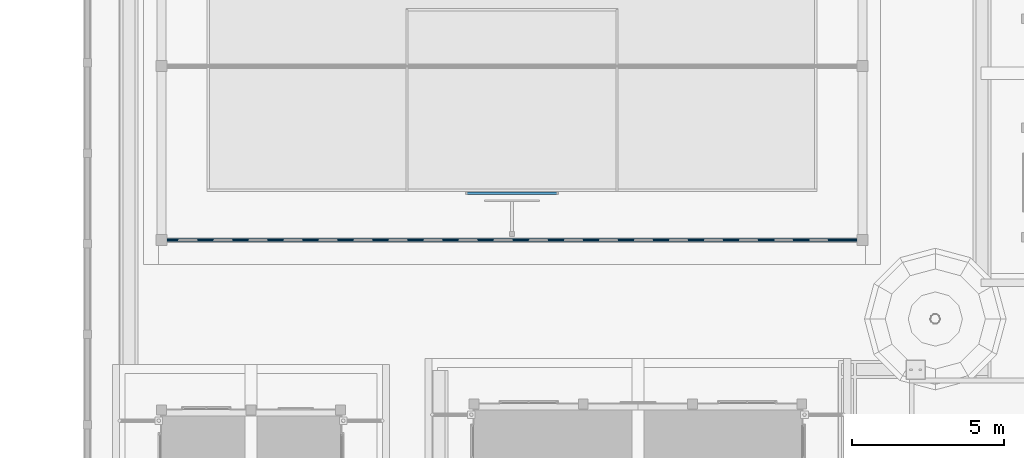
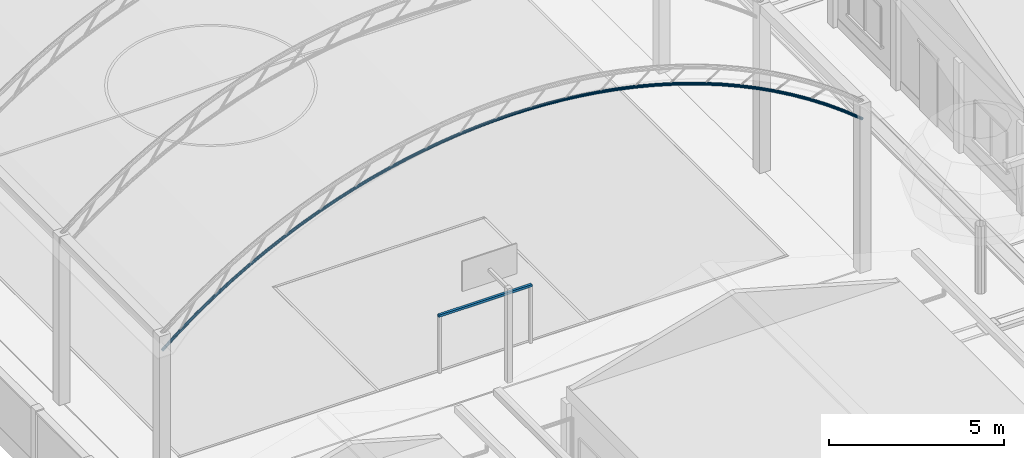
# One storey, part 18 of 177: 2 beams.
"""IFC4 building model written with IfcOpenShell, lengths in metres."""

from ifc_helpers import new_model, si_unit, origin, origin_with_axes, place, context, subcontext, project, spatial, triangles, element, save


model = new_model("IFC4")

# Units and contexts
model_context = context("Model", 3, precision=1e-05, world=origin_with_axes())
body_context = subcontext(model_context, "Body", "Model", "MODEL_VIEW")
ifc_project = project(units=[si_unit("LENGTHUNIT", "METRE"), si_unit("AREAUNIT", "SQUARE_METRE"), si_unit("VOLUMEUNIT", "CUBIC_METRE"), si_unit("PLANEANGLEUNIT", "RADIAN")], contexts=[model_context])

# Site, building, storey
site_placement = place(None, origin_with_axes())
site = spatial("IfcSite", under=ifc_project, at=site_placement, Name="Predio Los Mangos - Morales, San Martín", CompositionType="ELEMENT")
building_placement = place(site_placement, origin())
building = spatial("IfcBuilding", under=site, at=building_placement, Name="Hogar de Refugio Temporal", CompositionType="ELEMENT")
storey_placement = place(building_placement, origin())
storey = spatial("IfcBuildingStorey", under=building, at=storey_placement, Name="NIVEL 1 (NPT +0.00)", CompositionType="ELEMENT", Elevation=0.0)

# Beams
beam_1_placement = place(storey_placement, origin())
element("IfcBeam", 1, at=beam_1_placement, inside=storey, Name="travesano", ObjectType="Viga", PredefinedType="BEAM", context=body_context, shape_type="Tessellation", body=[
    triangles([(13.51, 94.11, 2.08), (16.59, 94.11, 2.08), (16.59, 94.19, 2.08), (13.51, 94.19, 2.08), (13.51, 94.11, 2.16), (16.59, 94.11, 2.16), (16.59, 94.19, 2.16), (13.51, 94.19, 2.16)], [[1, 4, 3], [1, 3, 2], [5, 6, 7], [5, 7, 8], [1, 2, 6], [1, 6, 5], [2, 3, 7], [2, 7, 6], [3, 4, 8], [3, 8, 7], [4, 1, 5], [4, 5, 8]]),
])
beam_2_placement = place(storey_placement, origin())
element("IfcBeam", 2, at=beam_2_placement, inside=storey, Name="arco", ObjectType="Viga", PredefinedType="BEAM", context=body_context, shape_type="Tessellation", body=[
    triangles([(3.4843, 92.6433, 5.3695), (3.4729, 92.625, 5.3838), (3.4687, 92.6, 5.389), (3.4729, 92.575, 5.3838), (3.4843, 92.5567, 5.3695), (3.5, 92.55, 5.35), (3.5157, 92.5567, 5.3305), (3.5271, 92.575, 5.3162), (3.5313, 92.6, 5.311), (3.5271, 92.625, 5.3162), (3.5157, 92.6433, 5.3305), (3.5, 92.65, 5.35), (4.0622, 92.6433, 5.8339), (4.0511, 92.625, 5.8484), (4.047, 92.6, 5.8537), (4.0511, 92.575, 5.8484), (4.0622, 92.5567, 5.8339), (4.0775, 92.55, 5.8141), (4.0928, 92.5567, 5.7943), (4.1039, 92.575, 5.7798), (4.108, 92.6, 5.7745), (4.1039, 92.625, 5.7798), (4.0928, 92.6433, 5.7943), (4.0775, 92.65, 5.8141), (4.6405, 92.6433, 6.2612), (4.63, 92.625, 6.2761), (4.6261, 92.6, 6.2816), (4.63, 92.575, 6.2761), (4.6405, 92.5567, 6.2612), (4.655, 92.55, 6.2408), (4.6695, 92.5567, 6.2204), (4.68, 92.575, 6.2055), (4.6839, 92.6, 6.2), (4.68, 92.625, 6.2055), (4.6695, 92.6433, 6.2204), (4.655, 92.65, 6.2408), (5.2188, 92.6433, 6.6543), (5.2088, 92.625, 6.6696), (5.2052, 92.6, 6.6752), (5.2088, 92.575, 6.6696), (5.2188, 92.5567, 6.6543), (5.2325, 92.55, 6.6333), (5.2462, 92.5567, 6.6124), (5.2562, 92.575, 6.5971), (5.2598, 92.6, 6.5915), (5.2562, 92.625, 6.5971), (5.2462, 92.6433, 6.6124), (5.2325, 92.65, 6.6333), (5.7971, 92.6433, 7.0157), (5.7877, 92.625, 7.0314), (5.7843, 92.6, 7.0372), (5.7877, 92.575, 7.0314), (5.7971, 92.5567, 7.0157), (5.81, 92.55, 6.9943), (5.8229, 92.5567, 6.9729), (5.8323, 92.575, 6.9572), (5.8357, 92.6, 6.9514), (5.8323, 92.625, 6.9572), (5.8229, 92.6433, 6.9729), (5.81, 92.65, 6.9943), (6.3755, 92.6433, 7.3478), (6.3666, 92.625, 7.3638), (6.3634, 92.6, 7.3697), (6.3666, 92.575, 7.3638), (6.3755, 92.5567, 7.3478), (6.3875, 92.55, 7.3259), (6.3995, 92.5567, 7.304), (6.4084, 92.575, 7.2879), (6.4116, 92.6, 7.282), (6.4084, 92.625, 7.2879), (6.3995, 92.6433, 7.304), (6.3875, 92.65, 7.3259), (6.9538, 92.6433, 7.6522), (6.9455, 92.625, 7.6685), (6.9425, 92.6, 7.6745), (6.9455, 92.575, 7.6685), (6.9538, 92.5567, 7.6522), (6.965, 92.55, 7.6298), (6.9762, 92.5567, 7.6075), (6.9845, 92.575, 7.5912), (6.9875, 92.6, 7.5852), (6.9845, 92.625, 7.5912), (6.9762, 92.6433, 7.6075), (6.965, 92.65, 7.6298), (7.5321, 92.6433, 7.9305), (7.5244, 92.625, 7.9471), (7.5216, 92.6, 7.9532), (7.5244, 92.575, 7.9471), (7.5321, 92.5567, 7.9305), (7.5425, 92.55, 7.9077), (7.5529, 92.5567, 7.885), (7.5606, 92.575, 7.8684), (7.5634, 92.6, 7.8623), (7.5606, 92.625, 7.8684), (7.5529, 92.6433, 7.885), (7.5425, 92.65, 7.9077), (8.1104, 92.6433, 8.184), (8.1033, 92.625, 8.2009), (8.1007, 92.6, 8.2071), (8.1033, 92.575, 8.2009), (8.1104, 92.5567, 8.184), (8.12, 92.55, 8.1609), (8.1296, 92.5567, 8.1379), (8.1367, 92.575, 8.121), (8.1393, 92.6, 8.1148), (8.1367, 92.625, 8.121), (8.1296, 92.6433, 8.1379), (8.12, 92.65, 8.1609), (8.6887, 92.6433, 8.4139), (8.6822, 92.625, 8.431), (8.6798, 92.6, 8.4373), (8.6822, 92.575, 8.431), (8.6887, 92.5567, 8.4139), (8.6975, 92.55, 8.3905), (8.7063, 92.5567, 8.3671), (8.7128, 92.575, 8.35), (8.7152, 92.6, 8.3437), (8.7128, 92.625, 8.35), (8.7063, 92.6433, 8.3671), (8.6975, 92.65, 8.3905), (9.267, 92.6433, 8.6211), (9.2611, 92.625, 8.6384), (9.2589, 92.6, 8.6447), (9.2611, 92.575, 8.6384), (9.267, 92.5567, 8.6211), (9.275, 92.55, 8.5974), (9.283, 92.5567, 8.5737), (9.2889, 92.575, 8.5564), (9.2911, 92.6, 8.55), (9.2889, 92.625, 8.5564), (9.283, 92.6433, 8.5737), (9.275, 92.65, 8.5974), (9.8453, 92.6433, 8.8064), (9.84, 92.625, 8.8239), (9.838, 92.6, 8.8303), (9.84, 92.575, 8.8239), (9.8453, 92.5567, 8.8064), (9.8525, 92.55, 8.7824), (9.8597, 92.5567, 8.7585), (9.865, 92.575, 8.741), (9.867, 92.6, 8.7346), (9.865, 92.625, 8.741), (9.8597, 92.6433, 8.7585), (9.8525, 92.65, 8.7824), (10.4236, 92.6433, 8.9705), (10.4189, 92.625, 8.9882), (10.4172, 92.6, 8.9947), (10.4189, 92.575, 8.9882), (10.4236, 92.5567, 8.9705), (10.43, 92.55, 8.9463), (10.4364, 92.5567, 8.9222), (10.4411, 92.575, 8.9045), (10.4429, 92.6, 8.898), (10.4411, 92.625, 8.9045), (10.4364, 92.6433, 8.9222), (10.43, 92.65, 8.9463), (11.0019, 92.6433, 9.1141), (10.9978, 92.625, 9.1319), (10.9963, 92.6, 9.1384), (10.9978, 92.575, 9.1319), (11.0019, 92.5567, 9.1141), (11.0075, 92.55, 9.0897), (11.0131, 92.5567, 9.0653), (11.0172, 92.575, 9.0475), (11.0187, 92.6, 9.041), (11.0172, 92.625, 9.0475), (11.0131, 92.6433, 9.0653), (11.0075, 92.65, 9.0897), (11.5802, 92.6433, 9.2375), (11.5767, 92.625, 9.2555), (11.5754, 92.6, 9.2621), (11.5767, 92.575, 9.2555), (11.5802, 92.5567, 9.2375), (11.585, 92.55, 9.213), (11.5898, 92.5567, 9.1885), (11.5933, 92.575, 9.1705), (11.5946, 92.6, 9.1639), (11.5933, 92.625, 9.1705), (11.5898, 92.6433, 9.1885), (11.585, 92.65, 9.213), (12.1585, 92.6433, 9.3413), (12.1555, 92.625, 9.3594), (12.1545, 92.6, 9.366), (12.1555, 92.575, 9.3594), (12.1585, 92.5567, 9.3413), (12.1625, 92.55, 9.3166), (12.1665, 92.5567, 9.292), (12.1695, 92.575, 9.2739), (12.1705, 92.6, 9.2673), (12.1695, 92.625, 9.2739), (12.1665, 92.6433, 9.292), (12.1625, 92.65, 9.3166), (12.7368, 92.6433, 9.4258), (12.7344, 92.625, 9.4439), (12.7336, 92.6, 9.4506), (12.7344, 92.575, 9.4439), (12.7368, 92.5567, 9.4258), (12.74, 92.55, 9.401), (12.7432, 92.5567, 9.3762), (12.7456, 92.575, 9.3581), (12.7464, 92.6, 9.3514), (12.7456, 92.625, 9.3581), (12.7432, 92.6433, 9.3762), (12.74, 92.65, 9.401), (13.3151, 92.6433, 9.4912), (13.3133, 92.625, 9.5094), (13.3127, 92.6, 9.5161), (13.3133, 92.575, 9.5094), (13.3151, 92.5567, 9.4912), (13.3175, 92.55, 9.4663), (13.3199, 92.5567, 9.4415), (13.3217, 92.575, 9.4232), (13.3223, 92.6, 9.4166), (13.3217, 92.625, 9.4232), (13.3199, 92.6433, 9.4415), (13.3175, 92.65, 9.4663), (13.8934, 92.6433, 9.5378), (13.8922, 92.625, 9.5561), (13.8918, 92.6, 9.5628), (13.8922, 92.575, 9.5561), (13.8934, 92.5567, 9.5378), (13.895, 92.55, 9.5129), (13.8966, 92.5567, 9.4879), (13.8978, 92.575, 9.4697), (13.8982, 92.6, 9.463), (13.8978, 92.625, 9.4697), (13.8966, 92.6433, 9.4879), (13.895, 92.65, 9.5129), (14.4717, 92.6433, 9.5657), (14.4711, 92.625, 9.584), (14.4709, 92.6, 9.5907), (14.4711, 92.575, 9.584), (14.4717, 92.5567, 9.5657), (14.4725, 92.55, 9.5407), (14.4733, 92.5567, 9.5157), (14.4739, 92.575, 9.4974), (14.4741, 92.6, 9.4907), (14.4739, 92.625, 9.4974), (14.4733, 92.6433, 9.5157), (14.4725, 92.65, 9.5407), (15.05, 92.6433, 9.575), (15.05, 92.625, 9.5933), (15.05, 92.6, 9.6), (15.05, 92.575, 9.5933), (15.05, 92.5567, 9.575), (15.05, 92.55, 9.55), (15.05, 92.5567, 9.525), (15.05, 92.575, 9.5067), (15.05, 92.6, 9.5), (15.05, 92.625, 9.5067), (15.05, 92.6433, 9.525), (15.05, 92.65, 9.55), (15.6283, 92.6433, 9.5657), (15.6289, 92.625, 9.584), (15.6291, 92.6, 9.5907), (15.6289, 92.575, 9.584), (15.6283, 92.5567, 9.5657), (15.6275, 92.55, 9.5407), (15.6267, 92.5567, 9.5157), (15.6261, 92.575, 9.4974), (15.6259, 92.6, 9.4907), (15.6261, 92.625, 9.4974), (15.6267, 92.6433, 9.5157), (15.6275, 92.65, 9.5407), (16.2066, 92.6433, 9.5378), (16.2078, 92.625, 9.5561), (16.2082, 92.6, 9.5628), (16.2078, 92.575, 9.5561), (16.2066, 92.5567, 9.5378), (16.205, 92.55, 9.5129), (16.2034, 92.5567, 9.4879), (16.2022, 92.575, 9.4697), (16.2018, 92.6, 9.463), (16.2022, 92.625, 9.4697), (16.2034, 92.6433, 9.4879), (16.205, 92.65, 9.5129), (16.7849, 92.6433, 9.4912), (16.7867, 92.625, 9.5094), (16.7873, 92.6, 9.5161), (16.7867, 92.575, 9.5094), (16.7849, 92.5567, 9.4912), (16.7825, 92.55, 9.4663), (16.7801, 92.5567, 9.4415), (16.7783, 92.575, 9.4232), (16.7777, 92.6, 9.4166), (16.7783, 92.625, 9.4232), (16.7801, 92.6433, 9.4415), (16.7825, 92.65, 9.4663), (17.3632, 92.6433, 9.4258), (17.3656, 92.625, 9.4439), (17.3664, 92.6, 9.4506), (17.3656, 92.575, 9.4439), (17.3632, 92.5567, 9.4258), (17.36, 92.55, 9.401), (17.3568, 92.5567, 9.3762), (17.3544, 92.575, 9.3581), (17.3536, 92.6, 9.3514), (17.3544, 92.625, 9.3581), (17.3568, 92.6433, 9.3762), (17.36, 92.65, 9.401), (17.9415, 92.6433, 9.3413), (17.9445, 92.625, 9.3594), (17.9455, 92.6, 9.366), (17.9445, 92.575, 9.3594), (17.9415, 92.5567, 9.3413), (17.9375, 92.55, 9.3166), (17.9335, 92.5567, 9.292), (17.9305, 92.575, 9.2739), (17.9295, 92.6, 9.2673), (17.9305, 92.625, 9.2739), (17.9335, 92.6433, 9.292), (17.9375, 92.65, 9.3166), (18.5198, 92.6433, 9.2375), (18.5233, 92.625, 9.2555), (18.5246, 92.6, 9.2621), (18.5233, 92.575, 9.2555), (18.5198, 92.5567, 9.2375), (18.515, 92.55, 9.213), (18.5102, 92.5567, 9.1885), (18.5067, 92.575, 9.1705), (18.5054, 92.6, 9.1639), (18.5067, 92.625, 9.1705), (18.5102, 92.6433, 9.1885), (18.515, 92.65, 9.213), (19.0981, 92.6433, 9.1141), (19.1022, 92.625, 9.1319), (19.1037, 92.6, 9.1384), (19.1022, 92.575, 9.1319), (19.0981, 92.5567, 9.1141), (19.0925, 92.55, 9.0897), (19.0869, 92.5567, 9.0653), (19.0828, 92.575, 9.0475), (19.0813, 92.6, 9.041), (19.0828, 92.625, 9.0475), (19.0869, 92.6433, 9.0653), (19.0925, 92.65, 9.0897), (19.6764, 92.6433, 8.9705), (19.6811, 92.625, 8.9882), (19.6828, 92.6, 8.9947), (19.6811, 92.575, 8.9882), (19.6764, 92.5567, 8.9705), (19.67, 92.55, 8.9463), (19.6636, 92.5567, 8.9222), (19.6589, 92.575, 8.9045), (19.6572, 92.6, 8.898), (19.6589, 92.625, 8.9045), (19.6636, 92.6433, 8.9222), (19.67, 92.65, 8.9463), (20.2547, 92.6433, 8.8064), (20.26, 92.625, 8.8239), (20.262, 92.6, 8.8303), (20.26, 92.575, 8.8239), (20.2547, 92.5567, 8.8064), (20.2475, 92.55, 8.7824), (20.2403, 92.5567, 8.7585), (20.235, 92.575, 8.741), (20.233, 92.6, 8.7346), (20.235, 92.625, 8.741), (20.2403, 92.6433, 8.7585), (20.2475, 92.65, 8.7824), (20.833, 92.6433, 8.6211), (20.8389, 92.625, 8.6384), (20.8411, 92.6, 8.6447), (20.8389, 92.575, 8.6384), (20.833, 92.5567, 8.6211), (20.825, 92.55, 8.5974), (20.817, 92.5567, 8.5737), (20.8111, 92.575, 8.5564), (20.8089, 92.6, 8.55), (20.8111, 92.625, 8.5564), (20.817, 92.6433, 8.5737), (20.825, 92.65, 8.5974), (21.4113, 92.6433, 8.4139), (21.4178, 92.625, 8.431), (21.4202, 92.6, 8.4373), (21.4178, 92.575, 8.431), (21.4113, 92.5567, 8.4139), (21.4025, 92.55, 8.3905), (21.3937, 92.5567, 8.3671), (21.3872, 92.575, 8.35), (21.3848, 92.6, 8.3437), (21.3872, 92.625, 8.35), (21.3937, 92.6433, 8.3671), (21.4025, 92.65, 8.3905), (21.9896, 92.6433, 8.184), (21.9967, 92.625, 8.2009), (21.9993, 92.6, 8.2071), (21.9967, 92.575, 8.2009), (21.9896, 92.5567, 8.184), (21.98, 92.55, 8.1609), (21.9704, 92.5567, 8.1379), (21.9633, 92.575, 8.121), (21.9607, 92.6, 8.1148), (21.9633, 92.625, 8.121), (21.9704, 92.6433, 8.1379), (21.98, 92.65, 8.1609), (22.5679, 92.6433, 7.9305), (22.5756, 92.625, 7.9471), (22.5784, 92.6, 7.9532), (22.5756, 92.575, 7.9471), (22.5679, 92.5567, 7.9305), (22.5575, 92.55, 7.9077), (22.5471, 92.5567, 7.885), (22.5394, 92.575, 7.8684), (22.5366, 92.6, 7.8623), (22.5394, 92.625, 7.8684), (22.5471, 92.6433, 7.885), (22.5575, 92.65, 7.9077), (23.1462, 92.6433, 7.6522), (23.1545, 92.625, 7.6685), (23.1575, 92.6, 7.6745), (23.1545, 92.575, 7.6685), (23.1462, 92.5567, 7.6522), (23.135, 92.55, 7.6298), (23.1238, 92.5567, 7.6075), (23.1155, 92.575, 7.5912), (23.1125, 92.6, 7.5852), (23.1155, 92.625, 7.5912), (23.1238, 92.6433, 7.6075), (23.135, 92.65, 7.6298), (23.7245, 92.6433, 7.3478), (23.7334, 92.625, 7.3638), (23.7366, 92.6, 7.3697), (23.7334, 92.575, 7.3638), (23.7245, 92.5567, 7.3478), (23.7125, 92.55, 7.3259), (23.7005, 92.5567, 7.304), (23.6916, 92.575, 7.2879), (23.6884, 92.6, 7.282), (23.6916, 92.625, 7.2879), (23.7005, 92.6433, 7.304), (23.7125, 92.65, 7.3259), (24.3029, 92.6433, 7.0157), (24.3123, 92.625, 7.0314), (24.3157, 92.6, 7.0372), (24.3123, 92.575, 7.0314), (24.3029, 92.5567, 7.0157), (24.29, 92.55, 6.9943), (24.2771, 92.5567, 6.9729), (24.2677, 92.575, 6.9572), (24.2643, 92.6, 6.9514), (24.2677, 92.625, 6.9572), (24.2771, 92.6433, 6.9729), (24.29, 92.65, 6.9943), (24.8812, 92.6433, 6.6543), (24.8912, 92.625, 6.6696), (24.8948, 92.6, 6.6752), (24.8912, 92.575, 6.6696), (24.8812, 92.5567, 6.6543), (24.8675, 92.55, 6.6333), (24.8538, 92.5567, 6.6124), (24.8438, 92.575, 6.5971), (24.8402, 92.6, 6.5915), (24.8438, 92.625, 6.5971), (24.8538, 92.6433, 6.6124), (24.8675, 92.65, 6.6333), (25.4595, 92.6433, 6.2612), (25.47, 92.625, 6.2761), (25.4739, 92.6, 6.2816), (25.47, 92.575, 6.2761), (25.4595, 92.5567, 6.2612), (25.445, 92.55, 6.2408), (25.4305, 92.5567, 6.2204), (25.42, 92.575, 6.2055), (25.4161, 92.6, 6.2), (25.42, 92.625, 6.2055), (25.4305, 92.6433, 6.2204), (25.445, 92.65, 6.2408), (26.0378, 92.6433, 5.8339), (26.0489, 92.625, 5.8484), (26.053, 92.6, 5.8537), (26.0489, 92.575, 5.8484), (26.0378, 92.5567, 5.8339), (26.0225, 92.55, 5.8141), (26.0072, 92.5567, 5.7943), (25.9961, 92.575, 5.7798), (25.992, 92.6, 5.7745), (25.9961, 92.625, 5.7798), (26.0072, 92.6433, 5.7943), (26.0225, 92.65, 5.8141), (26.6157, 92.6433, 5.3695), (26.6271, 92.625, 5.3838), (26.6313, 92.6, 5.389), (26.6271, 92.575, 5.3838), (26.6157, 92.5567, 5.3695), (26.6, 92.55, 5.35), (26.5843, 92.5567, 5.3305), (26.5729, 92.575, 5.3162), (26.5687, 92.6, 5.311), (26.5729, 92.625, 5.3162), (26.5843, 92.6433, 5.3305), (26.6, 92.65, 5.35)], [[1, 13, 24], [1, 24, 12], [2, 14, 13], [2, 13, 1], [3, 15, 14], [3, 14, 2], [4, 16, 15], [4, 15, 3], [5, 17, 16], [5, 16, 4], [6, 18, 17], [6, 17, 5], [7, 19, 18], [7, 18, 6], [8, 20, 19], [8, 19, 7], [9, 21, 20], [9, 20, 8], [10, 22, 21], [10, 21, 9], [11, 23, 22], [11, 22, 10], [12, 24, 23], [12, 23, 11], [13, 25, 36], [13, 36, 24], [14, 26, 25], [14, 25, 13], [15, 27, 26], [15, 26, 14], [16, 28, 27], [16, 27, 15], [17, 29, 28], [17, 28, 16], [18, 30, 29], [18, 29, 17], [19, 31, 30], [19, 30, 18], [20, 32, 31], [20, 31, 19], [21, 33, 32], [21, 32, 20], [22, 34, 33], [22, 33, 21], [23, 35, 34], [23, 34, 22], [24, 36, 35], [24, 35, 23], [25, 37, 48], [25, 48, 36], [26, 38, 37], [26, 37, 25], [27, 39, 38], [27, 38, 26], [28, 40, 39], [28, 39, 27], [29, 41, 40], [29, 40, 28], [30, 42, 41], [30, 41, 29], [31, 43, 42], [31, 42, 30], [32, 44, 43], [32, 43, 31], [33, 45, 44], [33, 44, 32], [34, 46, 45], [34, 45, 33], [35, 47, 46], [35, 46, 34], [36, 48, 47], [36, 47, 35], [37, 49, 60], [37, 60, 48], [38, 50, 49], [38, 49, 37], [39, 51, 50], [39, 50, 38], [40, 52, 51], [40, 51, 39], [41, 53, 52], [41, 52, 40], [42, 54, 53], [42, 53, 41], [43, 55, 54], [43, 54, 42], [44, 56, 55], [44, 55, 43], [45, 57, 56], [45, 56, 44], [46, 58, 57], [46, 57, 45], [47, 59, 58], [47, 58, 46], [48, 60, 59], [48, 59, 47], [49, 61, 72], [49, 72, 60], [50, 62, 61], [50, 61, 49], [51, 63, 62], [51, 62, 50], [52, 64, 63], [52, 63, 51], [53, 65, 64], [53, 64, 52], [54, 66, 65], [54, 65, 53], [55, 67, 66], [55, 66, 54], [56, 68, 67], [56, 67, 55], [57, 69, 68], [57, 68, 56], [58, 70, 69], [58, 69, 57], [59, 71, 70], [59, 70, 58], [60, 72, 71], [60, 71, 59], [61, 73, 84], [61, 84, 72], [62, 74, 73], [62, 73, 61], [63, 75, 74], [63, 74, 62], [64, 76, 75], [64, 75, 63], [65, 77, 76], [65, 76, 64], [66, 78, 77], [66, 77, 65], [67, 79, 78], [67, 78, 66], [68, 80, 79], [68, 79, 67], [69, 81, 80], [69, 80, 68], [70, 82, 81], [70, 81, 69], [71, 83, 82], [71, 82, 70], [72, 84, 83], [72, 83, 71], [73, 85, 96], [73, 96, 84], [74, 86, 85], [74, 85, 73], [75, 87, 86], [75, 86, 74], [76, 88, 87], [76, 87, 75], [77, 89, 88], [77, 88, 76], [78, 90, 89], [78, 89, 77], [79, 91, 90], [79, 90, 78], [80, 92, 91], [80, 91, 79], [81, 93, 92], [81, 92, 80], [82, 94, 93], [82, 93, 81], [83, 95, 94], [83, 94, 82], [84, 96, 95], [84, 95, 83], [85, 97, 108], [85, 108, 96], [86, 98, 97], [86, 97, 85], [87, 99, 98], [87, 98, 86], [88, 100, 99], [88, 99, 87], [89, 101, 100], [89, 100, 88], [90, 102, 101], [90, 101, 89], [91, 103, 102], [91, 102, 90], [92, 104, 103], [92, 103, 91], [93, 105, 104], [93, 104, 92], [94, 106, 105], [94, 105, 93], [95, 107, 106], [95, 106, 94], [96, 108, 107], [96, 107, 95], [97, 109, 120], [97, 120, 108], [98, 110, 109], [98, 109, 97], [99, 111, 110], [99, 110, 98], [100, 112, 111], [100, 111, 99], [101, 113, 112], [101, 112, 100], [102, 114, 113], [102, 113, 101], [103, 115, 114], [103, 114, 102], [104, 116, 115], [104, 115, 103], [105, 117, 116], [105, 116, 104], [106, 118, 117], [106, 117, 105], [107, 119, 118], [107, 118, 106], [108, 120, 119], [108, 119, 107], [109, 121, 132], [109, 132, 120], [110, 122, 121], [110, 121, 109], [111, 123, 122], [111, 122, 110], [112, 124, 123], [112, 123, 111], [113, 125, 124], [113, 124, 112], [114, 126, 125], [114, 125, 113], [115, 127, 126], [115, 126, 114], [116, 128, 127], [116, 127, 115], [117, 129, 128], [117, 128, 116], [118, 130, 129], [118, 129, 117], [119, 131, 130], [119, 130, 118], [120, 132, 131], [120, 131, 119], [121, 133, 144], [121, 144, 132], [122, 134, 133], [122, 133, 121], [123, 135, 134], [123, 134, 122], [124, 136, 135], [124, 135, 123], [125, 137, 136], [125, 136, 124], [126, 138, 137], [126, 137, 125], [127, 139, 138], [127, 138, 126], [128, 140, 139], [128, 139, 127], [129, 141, 140], [129, 140, 128], [130, 142, 141], [130, 141, 129], [131, 143, 142], [131, 142, 130], [132, 144, 143], [132, 143, 131], [133, 145, 156], [133, 156, 144], [134, 146, 145], [134, 145, 133], [135, 147, 146], [135, 146, 134], [136, 148, 147], [136, 147, 135], [137, 149, 148], [137, 148, 136], [138, 150, 149], [138, 149, 137], [139, 151, 150], [139, 150, 138], [140, 152, 151], [140, 151, 139], [141, 153, 152], [141, 152, 140], [142, 154, 153], [142, 153, 141], [143, 155, 154], [143, 154, 142], [144, 156, 155], [144, 155, 143], [145, 157, 168], [145, 168, 156], [146, 158, 157], [146, 157, 145], [147, 159, 158], [147, 158, 146], [148, 160, 159], [148, 159, 147], [149, 161, 160], [149, 160, 148], [150, 162, 161], [150, 161, 149], [151, 163, 162], [151, 162, 150], [152, 164, 163], [152, 163, 151], [153, 165, 164], [153, 164, 152], [154, 166, 165], [154, 165, 153], [155, 167, 166], [155, 166, 154], [156, 168, 167], [156, 167, 155], [157, 169, 180], [157, 180, 168], [158, 170, 169], [158, 169, 157], [159, 171, 170], [159, 170, 158], [160, 172, 171], [160, 171, 159], [161, 173, 172], [161, 172, 160], [162, 174, 173], [162, 173, 161], [163, 175, 174], [163, 174, 162], [164, 176, 175], [164, 175, 163], [165, 177, 176], [165, 176, 164], [166, 178, 177], [166, 177, 165], [167, 179, 178], [167, 178, 166], [168, 180, 179], [168, 179, 167], [169, 181, 192], [169, 192, 180], [170, 182, 181], [170, 181, 169], [171, 183, 182], [171, 182, 170], [172, 184, 183], [172, 183, 171], [173, 185, 184], [173, 184, 172], [174, 186, 185], [174, 185, 173], [175, 187, 186], [175, 186, 174], [176, 188, 187], [176, 187, 175], [177, 189, 188], [177, 188, 176], [178, 190, 189], [178, 189, 177], [179, 191, 190], [179, 190, 178], [180, 192, 191], [180, 191, 179], [181, 193, 204], [181, 204, 192], [182, 194, 193], [182, 193, 181], [183, 195, 194], [183, 194, 182], [184, 196, 195], [184, 195, 183], [185, 197, 196], [185, 196, 184], [186, 198, 197], [186, 197, 185], [187, 199, 198], [187, 198, 186], [188, 200, 199], [188, 199, 187], [189, 201, 200], [189, 200, 188], [190, 202, 201], [190, 201, 189], [191, 203, 202], [191, 202, 190], [192, 204, 203], [192, 203, 191], [193, 205, 216], [193, 216, 204], [194, 206, 205], [194, 205, 193], [195, 207, 206], [195, 206, 194], [196, 208, 207], [196, 207, 195], [197, 209, 208], [197, 208, 196], [198, 210, 209], [198, 209, 197], [199, 211, 210], [199, 210, 198], [200, 212, 211], [200, 211, 199], [201, 213, 212], [201, 212, 200], [202, 214, 213], [202, 213, 201], [203, 215, 214], [203, 214, 202], [204, 216, 215], [204, 215, 203], [205, 217, 228], [205, 228, 216], [206, 218, 217], [206, 217, 205], [207, 219, 218], [207, 218, 206], [208, 220, 219], [208, 219, 207], [209, 221, 220], [209, 220, 208], [210, 222, 221], [210, 221, 209], [211, 223, 222], [211, 222, 210], [212, 224, 223], [212, 223, 211], [213, 225, 224], [213, 224, 212], [214, 226, 225], [214, 225, 213], [215, 227, 226], [215, 226, 214], [216, 228, 227], [216, 227, 215], [217, 229, 240], [217, 240, 228], [218, 230, 229], [218, 229, 217], [219, 231, 230], [219, 230, 218], [220, 232, 231], [220, 231, 219], [221, 233, 232], [221, 232, 220], [222, 234, 233], [222, 233, 221], [223, 235, 234], [223, 234, 222], [224, 236, 235], [224, 235, 223], [225, 237, 236], [225, 236, 224], [226, 238, 237], [226, 237, 225], [227, 239, 238], [227, 238, 226], [228, 240, 239], [228, 239, 227], [229, 241, 252], [229, 252, 240], [230, 242, 241], [230, 241, 229], [231, 243, 242], [231, 242, 230], [232, 244, 243], [232, 243, 231], [233, 245, 244], [233, 244, 232], [234, 246, 245], [234, 245, 233], [235, 247, 246], [235, 246, 234], [236, 248, 247], [236, 247, 235], [237, 249, 248], [237, 248, 236], [238, 250, 249], [238, 249, 237], [239, 251, 250], [239, 250, 238], [240, 252, 251], [240, 251, 239], [241, 253, 264], [241, 264, 252], [242, 254, 253], [242, 253, 241], [243, 255, 254], [243, 254, 242], [244, 256, 255], [244, 255, 243], [245, 257, 256], [245, 256, 244], [246, 258, 257], [246, 257, 245], [247, 259, 258], [247, 258, 246], [248, 260, 259], [248, 259, 247], [249, 261, 260], [249, 260, 248], [250, 262, 261], [250, 261, 249], [251, 263, 262], [251, 262, 250], [252, 264, 263], [252, 263, 251], [253, 265, 276], [253, 276, 264], [254, 266, 265], [254, 265, 253], [255, 267, 266], [255, 266, 254], [256, 268, 267], [256, 267, 255], [257, 269, 268], [257, 268, 256], [258, 270, 269], [258, 269, 257], [259, 271, 270], [259, 270, 258], [260, 272, 271], [260, 271, 259], [261, 273, 272], [261, 272, 260], [262, 274, 273], [262, 273, 261], [263, 275, 274], [263, 274, 262], [264, 276, 275], [264, 275, 263], [265, 277, 288], [265, 288, 276], [266, 278, 277], [266, 277, 265], [267, 279, 278], [267, 278, 266], [268, 280, 279], [268, 279, 267], [269, 281, 280], [269, 280, 268], [270, 282, 281], [270, 281, 269], [271, 283, 282], [271, 282, 270], [272, 284, 283], [272, 283, 271], [273, 285, 284], [273, 284, 272], [274, 286, 285], [274, 285, 273], [275, 287, 286], [275, 286, 274], [276, 288, 287], [276, 287, 275], [277, 289, 300], [277, 300, 288], [278, 290, 289], [278, 289, 277], [279, 291, 290], [279, 290, 278], [280, 292, 291], [280, 291, 279], [281, 293, 292], [281, 292, 280], [282, 294, 293], [282, 293, 281], [283, 295, 294], [283, 294, 282], [284, 296, 295], [284, 295, 283], [285, 297, 296], [285, 296, 284], [286, 298, 297], [286, 297, 285], [287, 299, 298], [287, 298, 286], [288, 300, 299], [288, 299, 287], [289, 301, 312], [289, 312, 300], [290, 302, 301], [290, 301, 289], [291, 303, 302], [291, 302, 290], [292, 304, 303], [292, 303, 291], [293, 305, 304], [293, 304, 292], [294, 306, 305], [294, 305, 293], [295, 307, 306], [295, 306, 294], [296, 308, 307], [296, 307, 295], [297, 309, 308], [297, 308, 296], [298, 310, 309], [298, 309, 297], [299, 311, 310], [299, 310, 298], [300, 312, 311], [300, 311, 299], [301, 313, 324], [301, 324, 312], [302, 314, 313], [302, 313, 301], [303, 315, 314], [303, 314, 302], [304, 316, 315], [304, 315, 303], [305, 317, 316], [305, 316, 304], [306, 318, 317], [306, 317, 305], [307, 319, 318], [307, 318, 306], [308, 320, 319], [308, 319, 307], [309, 321, 320], [309, 320, 308], [310, 322, 321], [310, 321, 309], [311, 323, 322], [311, 322, 310], [312, 324, 323], [312, 323, 311], [313, 325, 336], [313, 336, 324], [314, 326, 325], [314, 325, 313], [315, 327, 326], [315, 326, 314], [316, 328, 327], [316, 327, 315], [317, 329, 328], [317, 328, 316], [318, 330, 329], [318, 329, 317], [319, 331, 330], [319, 330, 318], [320, 332, 331], [320, 331, 319], [321, 333, 332], [321, 332, 320], [322, 334, 333], [322, 333, 321], [323, 335, 334], [323, 334, 322], [324, 336, 335], [324, 335, 323], [325, 337, 348], [325, 348, 336], [326, 338, 337], [326, 337, 325], [327, 339, 338], [327, 338, 326], [328, 340, 339], [328, 339, 327], [329, 341, 340], [329, 340, 328], [330, 342, 341], [330, 341, 329], [331, 343, 342], [331, 342, 330], [332, 344, 343], [332, 343, 331], [333, 345, 344], [333, 344, 332], [334, 346, 345], [334, 345, 333], [335, 347, 346], [335, 346, 334], [336, 348, 347], [336, 347, 335], [337, 349, 360], [337, 360, 348], [338, 350, 349], [338, 349, 337], [339, 351, 350], [339, 350, 338], [340, 352, 351], [340, 351, 339], [341, 353, 352], [341, 352, 340], [342, 354, 353], [342, 353, 341], [343, 355, 354], [343, 354, 342], [344, 356, 355], [344, 355, 343], [345, 357, 356], [345, 356, 344], [346, 358, 357], [346, 357, 345], [347, 359, 358], [347, 358, 346], [348, 360, 359], [348, 359, 347], [349, 361, 372], [349, 372, 360], [350, 362, 361], [350, 361, 349], [351, 363, 362], [351, 362, 350], [352, 364, 363], [352, 363, 351], [353, 365, 364], [353, 364, 352], [354, 366, 365], [354, 365, 353], [355, 367, 366], [355, 366, 354], [356, 368, 367], [356, 367, 355], [357, 369, 368], [357, 368, 356], [358, 370, 369], [358, 369, 357], [359, 371, 370], [359, 370, 358], [360, 372, 371], [360, 371, 359], [361, 373, 384], [361, 384, 372], [362, 374, 373], [362, 373, 361], [363, 375, 374], [363, 374, 362], [364, 376, 375], [364, 375, 363], [365, 377, 376], [365, 376, 364], [366, 378, 377], [366, 377, 365], [367, 379, 378], [367, 378, 366], [368, 380, 379], [368, 379, 367], [369, 381, 380], [369, 380, 368], [370, 382, 381], [370, 381, 369], [371, 383, 382], [371, 382, 370], [372, 384, 383], [372, 383, 371], [373, 385, 396], [373, 396, 384], [374, 386, 385], [374, 385, 373], [375, 387, 386], [375, 386, 374], [376, 388, 387], [376, 387, 375], [377, 389, 388], [377, 388, 376], [378, 390, 389], [378, 389, 377], [379, 391, 390], [379, 390, 378], [380, 392, 391], [380, 391, 379], [381, 393, 392], [381, 392, 380], [382, 394, 393], [382, 393, 381], [383, 395, 394], [383, 394, 382], [384, 396, 395], [384, 395, 383], [385, 397, 408], [385, 408, 396], [386, 398, 397], [386, 397, 385], [387, 399, 398], [387, 398, 386], [388, 400, 399], [388, 399, 387], [389, 401, 400], [389, 400, 388], [390, 402, 401], [390, 401, 389], [391, 403, 402], [391, 402, 390], [392, 404, 403], [392, 403, 391], [393, 405, 404], [393, 404, 392], [394, 406, 405], [394, 405, 393], [395, 407, 406], [395, 406, 394], [396, 408, 407], [396, 407, 395], [397, 409, 420], [397, 420, 408], [398, 410, 409], [398, 409, 397], [399, 411, 410], [399, 410, 398], [400, 412, 411], [400, 411, 399], [401, 413, 412], [401, 412, 400], [402, 414, 413], [402, 413, 401], [403, 415, 414], [403, 414, 402], [404, 416, 415], [404, 415, 403], [405, 417, 416], [405, 416, 404], [406, 418, 417], [406, 417, 405], [407, 419, 418], [407, 418, 406], [408, 420, 419], [408, 419, 407], [409, 421, 432], [409, 432, 420], [410, 422, 421], [410, 421, 409], [411, 423, 422], [411, 422, 410], [412, 424, 423], [412, 423, 411], [413, 425, 424], [413, 424, 412], [414, 426, 425], [414, 425, 413], [415, 427, 426], [415, 426, 414], [416, 428, 427], [416, 427, 415], [417, 429, 428], [417, 428, 416], [418, 430, 429], [418, 429, 417], [419, 431, 430], [419, 430, 418], [420, 432, 431], [420, 431, 419], [421, 433, 444], [421, 444, 432], [422, 434, 433], [422, 433, 421], [423, 435, 434], [423, 434, 422], [424, 436, 435], [424, 435, 423], [425, 437, 436], [425, 436, 424], [426, 438, 437], [426, 437, 425], [427, 439, 438], [427, 438, 426], [428, 440, 439], [428, 439, 427], [429, 441, 440], [429, 440, 428], [430, 442, 441], [430, 441, 429], [431, 443, 442], [431, 442, 430], [432, 444, 443], [432, 443, 431], [433, 445, 456], [433, 456, 444], [434, 446, 445], [434, 445, 433], [435, 447, 446], [435, 446, 434], [436, 448, 447], [436, 447, 435], [437, 449, 448], [437, 448, 436], [438, 450, 449], [438, 449, 437], [439, 451, 450], [439, 450, 438], [440, 452, 451], [440, 451, 439], [441, 453, 452], [441, 452, 440], [442, 454, 453], [442, 453, 441], [443, 455, 454], [443, 454, 442], [444, 456, 455], [444, 455, 443], [445, 457, 468], [445, 468, 456], [446, 458, 457], [446, 457, 445], [447, 459, 458], [447, 458, 446], [448, 460, 459], [448, 459, 447], [449, 461, 460], [449, 460, 448], [450, 462, 461], [450, 461, 449], [451, 463, 462], [451, 462, 450], [452, 464, 463], [452, 463, 451], [453, 465, 464], [453, 464, 452], [454, 466, 465], [454, 465, 453], [455, 467, 466], [455, 466, 454], [456, 468, 467], [456, 467, 455], [457, 469, 480], [457, 480, 468], [458, 470, 469], [458, 469, 457], [459, 471, 470], [459, 470, 458], [460, 472, 471], [460, 471, 459], [461, 473, 472], [461, 472, 460], [462, 474, 473], [462, 473, 461], [463, 475, 474], [463, 474, 462], [464, 476, 475], [464, 475, 463], [465, 477, 476], [465, 476, 464], [466, 478, 477], [466, 477, 465], [467, 479, 478], [467, 478, 466], [468, 480, 479], [468, 479, 467], [469, 481, 492], [469, 492, 480], [470, 482, 481], [470, 481, 469], [471, 483, 482], [471, 482, 470], [472, 484, 483], [472, 483, 471], [473, 485, 484], [473, 484, 472], [474, 486, 485], [474, 485, 473], [475, 487, 486], [475, 486, 474], [476, 488, 487], [476, 487, 475], [477, 489, 488], [477, 488, 476], [478, 490, 489], [478, 489, 477], [479, 491, 490], [479, 490, 478], [480, 492, 491], [480, 491, 479]]),
])

save(model, "model.ifc")
